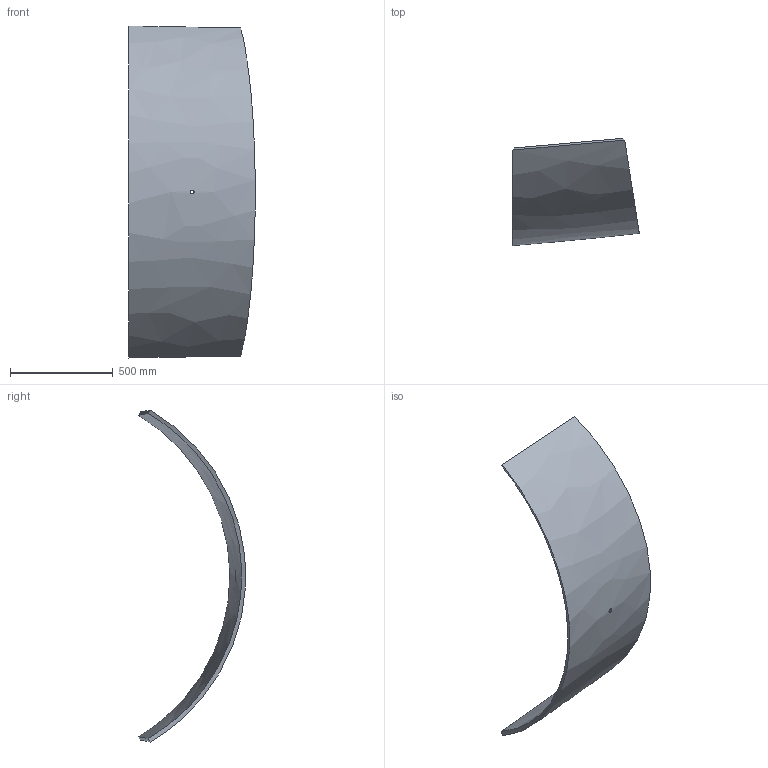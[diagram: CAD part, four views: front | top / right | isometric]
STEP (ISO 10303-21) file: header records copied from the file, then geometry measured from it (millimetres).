
FILE_DESCRIPTION (( 'STEP AP214' ), '1' );
FILE_NAME ('P13.1.STEP', '2025-01-09T19:43:26', ( '' ), ( '' ), 'SwSTEP 2.0', 'SolidWorks 2024', '' );
FILE_SCHEMA (( 'AUTOMOTIVE_DESIGN' ));
Length unit declared in the file: inch
Products named in the file (1): P13.1
Bounding box: 615.37 x 520.97 x 1615.1 mm (x, y, z)
Volume: 21374692.6 mm3; surface area: 2346468.8 mm2
Topology: 1 solids, 1 shells, 8 faces, 17 edges, 11 vertices
Faces by surface type: bspline 7, cylinder 1
Full cylindrical faces by diameter (mm): 19.447 x1
Entity records: 2544 total; most frequent: CARTESIAN_POINT 2396, ORIENTED_EDGE 30, EDGE_CURVE 15, B_SPLINE_CURVE_WITH_KNOTS 15, EDGE_LOOP 12, VERTEX_POINT 11, FACE_OUTER_BOUND 10, ADVANCED_FACE 8
